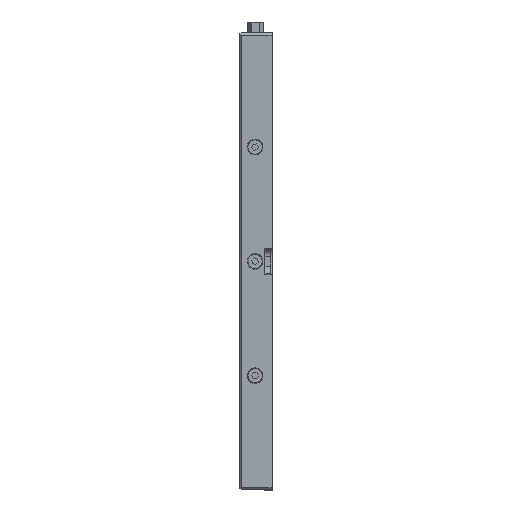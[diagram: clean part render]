
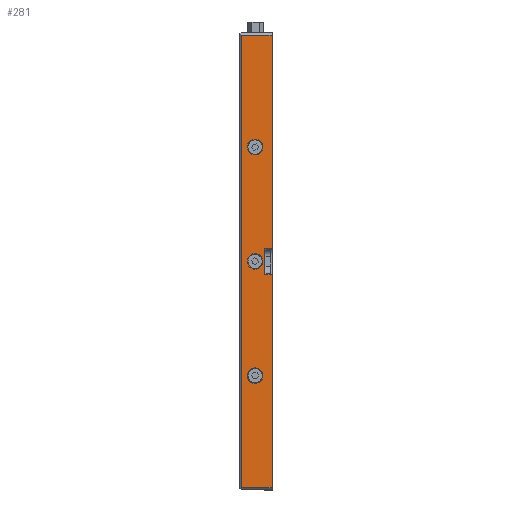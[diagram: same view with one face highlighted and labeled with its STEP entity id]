
A CAD part, left-side view. The second image highlights one B-rep face of the part: STEP entity #281.
In plain terms, the highlighted planar face has unit normal (-1, 0, 0).
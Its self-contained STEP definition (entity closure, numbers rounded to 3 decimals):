
#281 = ADVANCED_FACE ( 'NONE', ( #9175, #17524, #817, #313 ), #15110, .F. ) ;
#313 = FACE_BOUND ( 'NONE', #14039, .T. ) ;
#331 = VECTOR ( 'NONE', #3044, 1000. ) ;
#817 = FACE_BOUND ( 'NONE', #1180, .T. ) ;
#1180 = EDGE_LOOP ( 'NONE', ( #12419, #9760 ) ) ;
#1603 = EDGE_CURVE ( 'NONE', #6328, #6310, #16681, .T. ) ;
#1604 = ORIENTED_EDGE ( 'NONE', *, *, #10175, .F. ) ;
#1922 = EDGE_LOOP ( 'NONE', ( #1604, #13612 ) ) ;
#2467 = AXIS2_PLACEMENT_3D ( 'NONE', #7741, #19407, #9399 ) ;
#2496 = DIRECTION ( 'NONE',  ( 0., 1., 0. ) ) ;
#3023 = CARTESIAN_POINT ( 'NONE',  ( -192., 14.3, 96. ) ) ;
#3044 = DIRECTION ( 'NONE',  ( 0., -1., 0. ) ) ;
#3150 = DIRECTION ( 'NONE',  ( 0., 1., 0. ) ) ;
#3159 = CARTESIAN_POINT ( 'NONE',  ( -192., 26., 192. ) ) ;
#3509 = CARTESIAN_POINT ( 'NONE',  ( -192., 14.3, -96. ) ) ;
#3528 = VERTEX_POINT ( 'NONE', #11852 ) ;
#3837 = CIRCLE ( 'NONE', #2467, 6. ) ;
#3879 = CARTESIAN_POINT ( 'NONE',  ( -192., 14.3, 6. ) ) ;
#3886 = VECTOR ( 'NONE', #19544, 1000. ) ;
#3982 = CARTESIAN_POINT ( 'NONE',  ( -192., 14.3, 102. ) ) ;
#4032 = EDGE_CURVE ( 'NONE', #11006, #9608, #17029, .T. ) ;
#4102 = ORIENTED_EDGE ( 'NONE', *, *, #6821, .T. ) ;
#4404 = EDGE_CURVE ( 'NONE', #6310, #8023, #5273, .T. ) ;
#4604 = CARTESIAN_POINT ( 'NONE',  ( -192., 26., 190. ) ) ;
#4634 = LINE ( 'NONE', #16897, #13537 ) ;
#4684 = DIRECTION ( 'NONE',  ( 0., 0., 1. ) ) ;
#4744 = LINE ( 'NONE', #6313, #331 ) ;
#4767 = ORIENTED_EDGE ( 'NONE', *, *, #11967, .T. ) ;
#4791 = CIRCLE ( 'NONE', #6117, 6. ) ;
#5050 = ORIENTED_EDGE ( 'NONE', *, *, #4404, .T. ) ;
#5098 = DIRECTION ( 'NONE',  ( 0., 0., -1. ) ) ;
#5182 = DIRECTION ( 'NONE',  ( 0., 0., -1. ) ) ;
#5222 = DIRECTION ( 'NONE',  ( 0., 0., -1. ) ) ;
#5273 = LINE ( 'NONE', #19805, #9181 ) ;
#5684 = CIRCLE ( 'NONE', #14516, 6. ) ;
#5765 = VERTEX_POINT ( 'NONE', #19447 ) ;
#5983 = AXIS2_PLACEMENT_3D ( 'NONE', #18469, #8476, #20158 ) ;
#6117 = AXIS2_PLACEMENT_3D ( 'NONE', #18050, #8081, #19761 ) ;
#6310 = VERTEX_POINT ( 'NONE', #8372 ) ;
#6313 = CARTESIAN_POINT ( 'NONE',  ( -192., 27., 11. ) ) ;
#6328 = VERTEX_POINT ( 'NONE', #10130 ) ;
#6821 = EDGE_CURVE ( 'NONE', #9608, #5765, #8132, .T. ) ;
#7741 = CARTESIAN_POINT ( 'NONE',  ( -192., 14.3, 0. ) ) ;
#7822 = VECTOR ( 'NONE', #16606, 1000. ) ;
#7872 = CIRCLE ( 'NONE', #8137, 6. ) ;
#8023 = VERTEX_POINT ( 'NONE', #4604 ) ;
#8067 = CARTESIAN_POINT ( 'NONE',  ( -192., 14.3, 96. ) ) ;
#8081 = DIRECTION ( 'NONE',  ( 1., 0., 0. ) ) ;
#8102 = CARTESIAN_POINT ( 'NONE',  ( -192., 26., -190. ) ) ;
#8132 = LINE ( 'NONE', #9114, #15954 ) ;
#8137 = AXIS2_PLACEMENT_3D ( 'NONE', #3023, #14692, #4684 ) ;
#8157 = VECTOR ( 'NONE', #8434, 1000. ) ;
#8305 = CARTESIAN_POINT ( 'NONE',  ( -192., 0., 192. ) ) ;
#8372 = CARTESIAN_POINT ( 'NONE',  ( -192., 0., 190. ) ) ;
#8434 = DIRECTION ( 'NONE',  ( 0., 0., 1. ) ) ;
#8476 = DIRECTION ( 'NONE',  ( 1., 0., 0. ) ) ;
#8503 = EDGE_CURVE ( 'NONE', #18905, #11006, #12238, .T. ) ;
#9114 = CARTESIAN_POINT ( 'NONE',  ( -192., 27., -11. ) ) ;
#9115 = VERTEX_POINT ( 'NONE', #18458 ) ;
#9125 = EDGE_CURVE ( 'NONE', #9115, #16401, #5684, .T. ) ;
#9175 = FACE_OUTER_BOUND ( 'NONE', #11341, .T. ) ;
#9181 = VECTOR ( 'NONE', #3150, 1000. ) ;
#9399 = DIRECTION ( 'NONE',  ( 0., 0., -1. ) ) ;
#9461 = VERTEX_POINT ( 'NONE', #21489 ) ;
#9541 = CARTESIAN_POINT ( 'NONE',  ( -192., 27., -190. ) ) ;
#9608 = VERTEX_POINT ( 'NONE', #20195 ) ;
#9624 = EDGE_CURVE ( 'NONE', #9461, #5765, #4634, .T. ) ;
#9706 = ORIENTED_EDGE ( 'NONE', *, *, #9624, .F. ) ;
#9723 = DIRECTION ( 'NONE',  ( 0., 0., 1. ) ) ;
#9760 = ORIENTED_EDGE ( 'NONE', *, *, #16438, .T. ) ;
#9810 = VERTEX_POINT ( 'NONE', #3982 ) ;
#10130 = CARTESIAN_POINT ( 'NONE',  ( -192., 0., 11. ) ) ;
#10175 = EDGE_CURVE ( 'NONE', #9810, #11668, #16894, .T. ) ;
#10838 = EDGE_CURVE ( 'NONE', #16401, #9115, #18163, .T. ) ;
#11006 = VERTEX_POINT ( 'NONE', #13949 ) ;
#11105 = ORIENTED_EDGE ( 'NONE', *, *, #4032, .T. ) ;
#11287 = ORIENTED_EDGE ( 'NONE', *, *, #19334, .T. ) ;
#11341 = EDGE_LOOP ( 'NONE', ( #11105, #4102, #9706, #11287, #20533, #5050, #4767, #15039 ) ) ;
#11668 = VERTEX_POINT ( 'NONE', #17117 ) ;
#11852 = CARTESIAN_POINT ( 'NONE',  ( -192., 14.3, -6. ) ) ;
#11967 = EDGE_CURVE ( 'NONE', #8023, #18905, #20500, .T. ) ;
#12238 = LINE ( 'NONE', #9541, #3886 ) ;
#12244 = AXIS2_PLACEMENT_3D ( 'NONE', #13418, #16676, #5098 ) ;
#12419 = ORIENTED_EDGE ( 'NONE', *, *, #14126, .T. ) ;
#13398 = CARTESIAN_POINT ( 'NONE',  ( -192., 0., 192. ) ) ;
#13418 = CARTESIAN_POINT ( 'NONE',  ( -192., 27., 192. ) ) ;
#13537 = VECTOR ( 'NONE', #5222, 1000. ) ;
#13612 = ORIENTED_EDGE ( 'NONE', *, *, #19855, .F. ) ;
#13949 = CARTESIAN_POINT ( 'NONE',  ( -192., 0., -190. ) ) ;
#13982 = AXIS2_PLACEMENT_3D ( 'NONE', #8067, #19752, #9723 ) ;
#14039 = EDGE_LOOP ( 'NONE', ( #14336, #17371 ) ) ;
#14126 = EDGE_CURVE ( 'NONE', #3528, #15642, #3837, .T. ) ;
#14336 = ORIENTED_EDGE ( 'NONE', *, *, #10838, .T. ) ;
#14516 = AXIS2_PLACEMENT_3D ( 'NONE', #3509, #15182, #5182 ) ;
#14692 = DIRECTION ( 'NONE',  ( -1., 0., 0. ) ) ;
#15039 = ORIENTED_EDGE ( 'NONE', *, *, #8503, .T. ) ;
#15110 = PLANE ( 'NONE',  #12244 ) ;
#15182 = DIRECTION ( 'NONE',  ( 1., 0., 0. ) ) ;
#15642 = VERTEX_POINT ( 'NONE', #3879 ) ;
#15954 = VECTOR ( 'NONE', #2496, 1000. ) ;
#16401 = VERTEX_POINT ( 'NONE', #19529 ) ;
#16438 = EDGE_CURVE ( 'NONE', #15642, #3528, #4791, .T. ) ;
#16545 = VECTOR ( 'NONE', #19813, 1000. ) ;
#16606 = DIRECTION ( 'NONE',  ( 0., 0., 1. ) ) ;
#16676 = DIRECTION ( 'NONE',  ( 1., 0., 0. ) ) ;
#16681 = LINE ( 'NONE', #8305, #7822 ) ;
#16894 = CIRCLE ( 'NONE', #13982, 6. ) ;
#16897 = CARTESIAN_POINT ( 'NONE',  ( -192., 6., -10. ) ) ;
#17029 = LINE ( 'NONE', #13398, #8157 ) ;
#17117 = CARTESIAN_POINT ( 'NONE',  ( -192., 14.3, 90. ) ) ;
#17371 = ORIENTED_EDGE ( 'NONE', *, *, #9125, .T. ) ;
#17524 = FACE_BOUND ( 'NONE', #1922, .T. ) ;
#18050 = CARTESIAN_POINT ( 'NONE',  ( -192., 14.3, 0. ) ) ;
#18163 = CIRCLE ( 'NONE', #5983, 6. ) ;
#18458 = CARTESIAN_POINT ( 'NONE',  ( -192., 14.3, -102. ) ) ;
#18469 = CARTESIAN_POINT ( 'NONE',  ( -192., 14.3, -96. ) ) ;
#18905 = VERTEX_POINT ( 'NONE', #8102 ) ;
#19334 = EDGE_CURVE ( 'NONE', #9461, #6328, #4744, .T. ) ;
#19407 = DIRECTION ( 'NONE',  ( 1., 0., 0. ) ) ;
#19447 = CARTESIAN_POINT ( 'NONE',  ( -192., 6., -11. ) ) ;
#19529 = CARTESIAN_POINT ( 'NONE',  ( -192., 14.3, -90. ) ) ;
#19544 = DIRECTION ( 'NONE',  ( 0., -1., 0. ) ) ;
#19752 = DIRECTION ( 'NONE',  ( -1., 0., 0. ) ) ;
#19761 = DIRECTION ( 'NONE',  ( 0., 0., -1. ) ) ;
#19805 = CARTESIAN_POINT ( 'NONE',  ( -192., 27., 190. ) ) ;
#19813 = DIRECTION ( 'NONE',  ( 0., 0., -1. ) ) ;
#19855 = EDGE_CURVE ( 'NONE', #11668, #9810, #7872, .T. ) ;
#20158 = DIRECTION ( 'NONE',  ( 0., 0., -1. ) ) ;
#20195 = CARTESIAN_POINT ( 'NONE',  ( -192., 0., -11. ) ) ;
#20500 = LINE ( 'NONE', #3159, #16545 ) ;
#20533 = ORIENTED_EDGE ( 'NONE', *, *, #1603, .T. ) ;
#21489 = CARTESIAN_POINT ( 'NONE',  ( -192., 6., 11. ) ) ;
